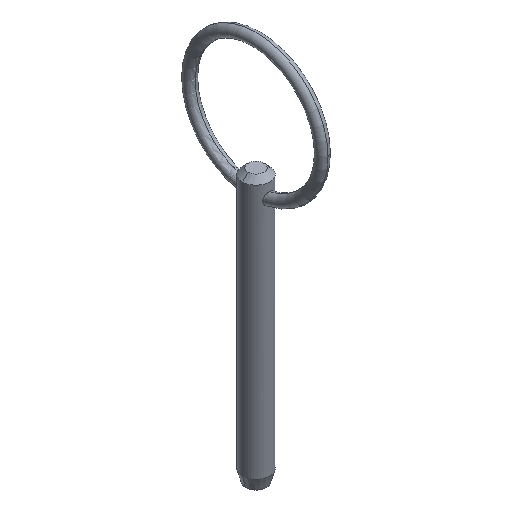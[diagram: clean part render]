
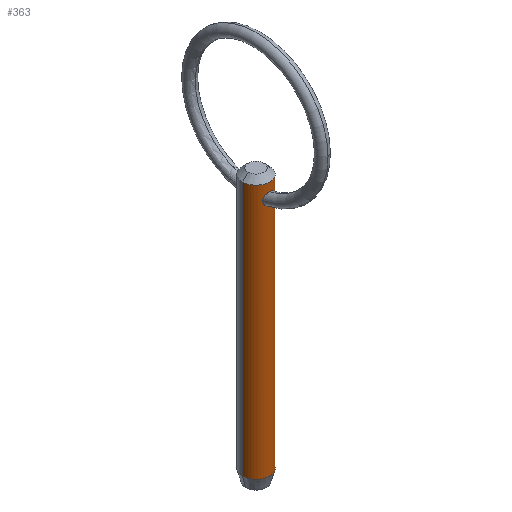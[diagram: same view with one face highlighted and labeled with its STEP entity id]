
A CAD part, isometric view. The second image highlights one B-rep face of the part: STEP entity #363.
In plain terms, the highlighted cylindrical face has radius 2.38 mm (diameter 4.76 mm), a partial arc.
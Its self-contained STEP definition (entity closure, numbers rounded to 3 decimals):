
#1 = CARTESIAN_POINT ( 'NONE',  ( 0., -2.38, 40.368 ) ) ;
#3 = DIRECTION ( 'NONE',  ( -1., 0., 0. ) ) ;
#4 = CARTESIAN_POINT ( 'NONE',  ( 0., -2.38, 38.325 ) ) ;
#7 = CARTESIAN_POINT ( 'NONE',  ( 0.865, -2.218, 39.84 ) ) ;
#9 = ORIENTED_EDGE ( 'NONE', *, *, #339, .T. ) ;
#12 = EDGE_LOOP ( 'NONE', ( #26, #246 ) ) ;
#13 = FACE_BOUND ( 'NONE', #12, .T. ) ;
#19 = CARTESIAN_POINT ( 'NONE',  ( -0.505, -2.329, 40.226 ) ) ;
#26 = ORIENTED_EDGE ( 'NONE', *, *, #410, .T. ) ;
#29 = EDGE_CURVE ( 'NONE', #301, #103, #199, .T. ) ;
#35 = CARTESIAN_POINT ( 'NONE',  ( 0.793, -2.246, 39.952 ) ) ;
#36 = CARTESIAN_POINT ( 'NONE',  ( 0.134, -2.38, 40.368 ) ) ;
#51 = B_SPLINE_CURVE_WITH_KNOTS ( 'NONE', 3,
 ( #349, #136, #313, #55, #457, #198, #276, #461, #391, #345, #347, #165, #19, #431, #52, #460 ),
 .UNSPECIFIED., .F., .F.,
 ( 4, 2, 2, 2, 2, 2, 2, 4 ),
 ( 0.006, 0.006, 0.007, 0.007, 0.007, 0.008, 0.009, 0.009 ),
 .UNSPECIFIED. ) ;
#52 = CARTESIAN_POINT ( 'NONE',  ( -0.134, -2.38, 40.368 ) ) ;
#53 = AXIS2_PLACEMENT_3D ( 'NONE', #311, #280, #429 ) ;
#55 = CARTESIAN_POINT ( 'NONE',  ( -0.514, -2.327, 38.449 ) ) ;
#59 = CARTESIAN_POINT ( 'NONE',  ( -2.38, 0., 38.1 ) ) ;
#64 = EDGE_CURVE ( 'NONE', #426, #203, #51, .T. ) ;
#66 = CARTESIAN_POINT ( 'NONE',  ( 0.268, -2.368, 40.337 ) ) ;
#83 = AXIS2_PLACEMENT_3D ( 'NONE', #371, #256, #3 ) ;
#85 = EDGE_LOOP ( 'NONE', ( #317, #9, #290, #130 ) ) ;
#99 = CARTESIAN_POINT ( 'NONE',  ( -2.38, 0., -3.08 ) ) ;
#103 = VERTEX_POINT ( 'NONE', #350 ) ;
#105 = VECTOR ( 'NONE', #388, 1000. ) ;
#107 = CARTESIAN_POINT ( 'NONE',  ( 0.996, -2.162, 39.464 ) ) ;
#108 = CARTESIAN_POINT ( 'NONE',  ( 0.811, -2.24, 38.706 ) ) ;
#109 = CARTESIAN_POINT ( 'NONE',  ( -2.38, 0., 41.84 ) ) ;
#127 = B_SPLINE_CURVE_WITH_KNOTS ( 'NONE', 3,
 ( #1, #36, #66, #292, #216, #35, #7, #322, #107, #255, #151, #288, #108, #367, #213, #403, #179, #4 ),
 .UNSPECIFIED., .F., .F.,
 ( 4, 2, 2, 2, 2, 2, 2, 2, 4 ),
 ( 0.003, 0.003, 0.003, 0.004, 0.004, 0.005, 0.005, 0.005, 0.006 ),
 .UNSPECIFIED. ) ;
#130 = ORIENTED_EDGE ( 'NONE', *, *, #29, .T. ) ;
#136 = CARTESIAN_POINT ( 'NONE',  ( -0.133, -2.38, 38.325 ) ) ;
#141 = CARTESIAN_POINT ( 'NONE',  ( 0., -2.38, 40.368 ) ) ;
#144 = CARTESIAN_POINT ( 'NONE',  ( 0., 0., 41.84 ) ) ;
#147 = VERTEX_POINT ( 'NONE', #240 ) ;
#149 = DIRECTION ( 'NONE',  ( 1., 0., 0. ) ) ;
#151 = CARTESIAN_POINT ( 'NONE',  ( 0.981, -2.169, 39.064 ) ) ;
#155 = EDGE_CURVE ( 'NONE', #147, #103, #327, .T. ) ;
#160 = FACE_OUTER_BOUND ( 'NONE', #85, .T. ) ;
#165 = CARTESIAN_POINT ( 'NONE',  ( -0.613, -2.302, 40.146 ) ) ;
#179 = CARTESIAN_POINT ( 'NONE',  ( 0.133, -2.38, 38.325 ) ) ;
#182 = LINE ( 'NONE', #59, #283 ) ;
#196 = CARTESIAN_POINT ( 'NONE',  ( 2.38, 0., 38.1 ) ) ;
#198 = CARTESIAN_POINT ( 'NONE',  ( -0.811, -2.24, 38.706 ) ) ;
#199 = CIRCLE ( 'NONE', #53, 2.38 ) ;
#203 = VERTEX_POINT ( 'NONE', #141 ) ;
#212 = DIRECTION ( 'NONE',  ( 0., 0., -1. ) ) ;
#213 = CARTESIAN_POINT ( 'NONE',  ( 0.513, -2.327, 38.448 ) ) ;
#216 = CARTESIAN_POINT ( 'NONE',  ( 0.615, -2.301, 40.144 ) ) ;
#240 = CARTESIAN_POINT ( 'NONE',  ( 2.38, 0., 41.84 ) ) ;
#246 = ORIENTED_EDGE ( 'NONE', *, *, #64, .T. ) ;
#255 = CARTESIAN_POINT ( 'NONE',  ( 1.003, -2.158, 39.199 ) ) ;
#256 = DIRECTION ( 'NONE',  ( 0., 0., -1. ) ) ;
#258 = EDGE_CURVE ( 'NONE', #454, #301, #182, .T. ) ;
#276 = CARTESIAN_POINT ( 'NONE',  ( -0.885, -2.21, 38.817 ) ) ;
#280 = DIRECTION ( 'NONE',  ( 0., 0., 1. ) ) ;
#283 = VECTOR ( 'NONE', #397, 1000. ) ;
#288 = CARTESIAN_POINT ( 'NONE',  ( 0.885, -2.21, 38.817 ) ) ;
#290 = ORIENTED_EDGE ( 'NONE', *, *, #258, .T. ) ;
#292 = CARTESIAN_POINT ( 'NONE',  ( 0.508, -2.328, 40.224 ) ) ;
#301 = VERTEX_POINT ( 'NONE', #99 ) ;
#311 = CARTESIAN_POINT ( 'NONE',  ( 0., 0., -3.08 ) ) ;
#313 = CARTESIAN_POINT ( 'NONE',  ( -0.268, -2.368, 38.351 ) ) ;
#317 = ORIENTED_EDGE ( 'NONE', *, *, #155, .F. ) ;
#322 = CARTESIAN_POINT ( 'NONE',  ( 0.966, -2.176, 39.597 ) ) ;
#323 = AXIS2_PLACEMENT_3D ( 'NONE', #144, #212, #149 ) ;
#327 = LINE ( 'NONE', #196, #105 ) ;
#339 = EDGE_CURVE ( 'NONE', #147, #454, #381, .T. ) ;
#345 = CARTESIAN_POINT ( 'NONE',  ( -0.991, -2.164, 39.601 ) ) ;
#347 = CARTESIAN_POINT ( 'NONE',  ( -0.88, -2.219, 39.86 ) ) ;
#349 = CARTESIAN_POINT ( 'NONE',  ( 0., -2.38, 38.325 ) ) ;
#350 = CARTESIAN_POINT ( 'NONE',  ( 2.38, 0., -3.08 ) ) ;
#363 = ADVANCED_FACE ( 'NONE', ( #160, #13 ), #472, .T. ) ;
#367 = CARTESIAN_POINT ( 'NONE',  ( 0.625, -2.299, 38.521 ) ) ;
#371 = CARTESIAN_POINT ( 'NONE',  ( 0., 0., 38.1 ) ) ;
#381 = CIRCLE ( 'NONE', #323, 2.38 ) ;
#383 = CARTESIAN_POINT ( 'NONE',  ( 0., -2.38, 38.325 ) ) ;
#388 = DIRECTION ( 'NONE',  ( 0., 0., -1. ) ) ;
#391 = CARTESIAN_POINT ( 'NONE',  ( -1.004, -2.158, 39.199 ) ) ;
#397 = DIRECTION ( 'NONE',  ( 0., 0., -1. ) ) ;
#403 = CARTESIAN_POINT ( 'NONE',  ( 0.268, -2.368, 38.351 ) ) ;
#410 = EDGE_CURVE ( 'NONE', #203, #426, #127, .T. ) ;
#426 = VERTEX_POINT ( 'NONE', #383 ) ;
#429 = DIRECTION ( 'NONE',  ( -1., 0., 0. ) ) ;
#431 = CARTESIAN_POINT ( 'NONE',  ( -0.267, -2.368, 40.337 ) ) ;
#454 = VERTEX_POINT ( 'NONE', #109 ) ;
#457 = CARTESIAN_POINT ( 'NONE',  ( -0.626, -2.298, 38.522 ) ) ;
#460 = CARTESIAN_POINT ( 'NONE',  ( 0., -2.38, 40.368 ) ) ;
#461 = CARTESIAN_POINT ( 'NONE',  ( -0.982, -2.169, 39.065 ) ) ;
#472 = CYLINDRICAL_SURFACE ( 'NONE', #83, 2.38 ) ;
